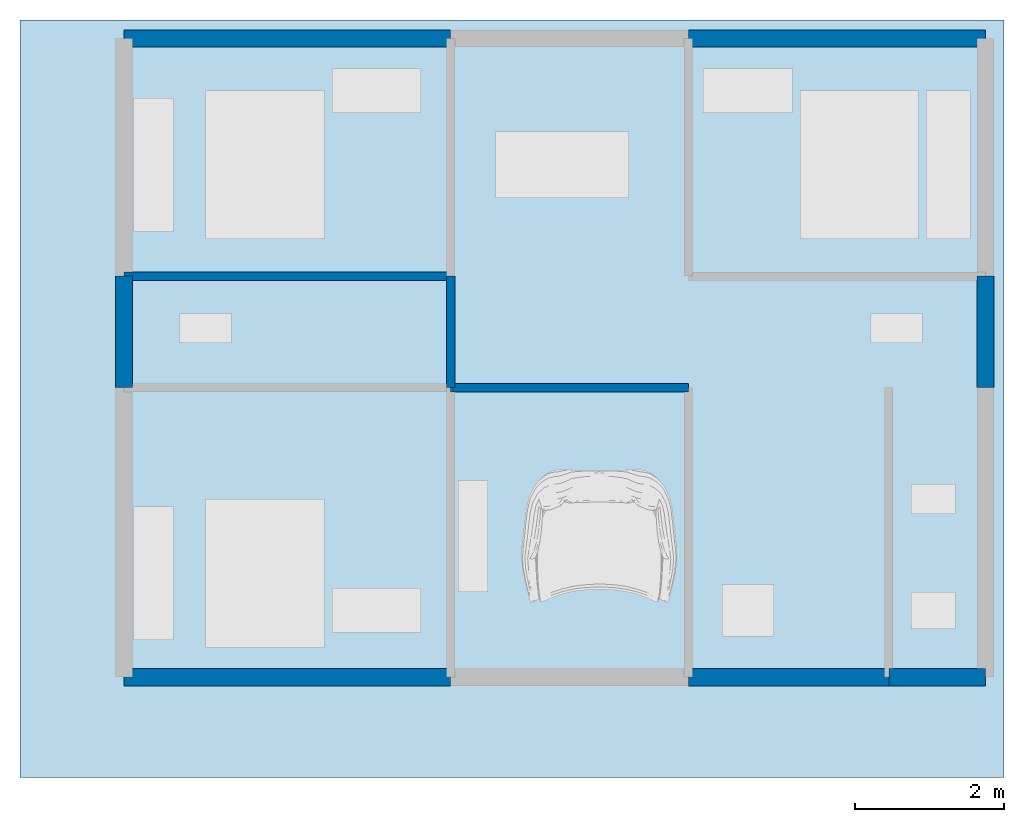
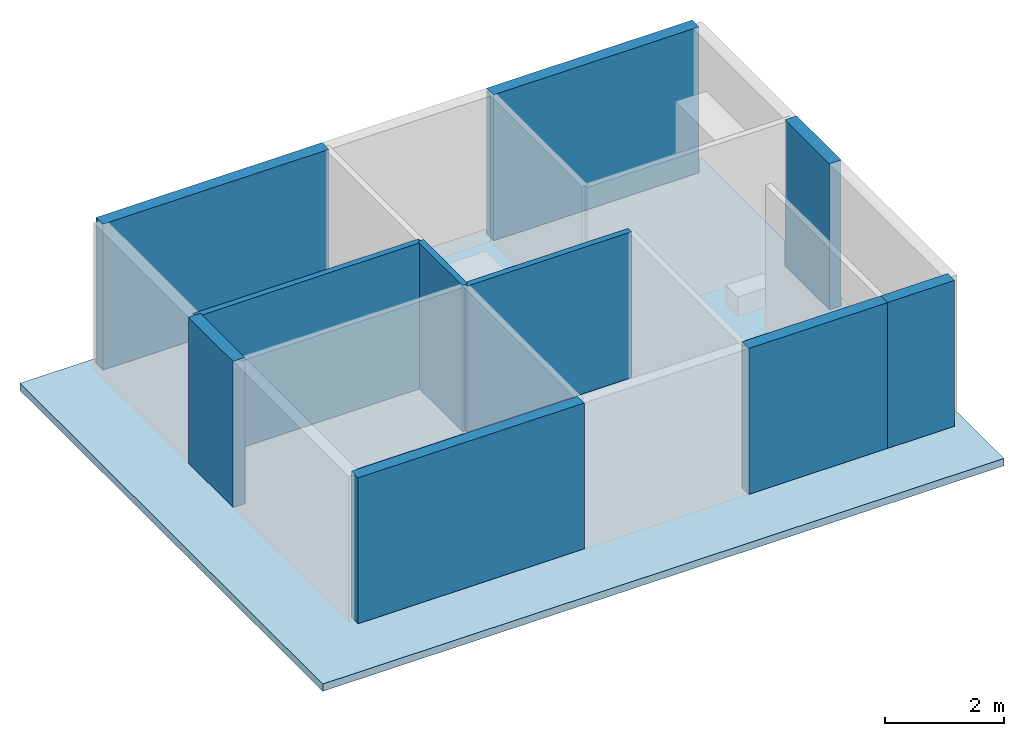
# One storey, part 1 of 3: 10 walls, 1 slab.
"""IFC4 building model written with IfcOpenShell, lengths in metres."""

from ifc_helpers import new_model, si_unit, frame, origin, place, context, project, spatial, polyline, outline, extrude, material, element, save


model = new_model("IFC4")

# Units and contexts
model_context = context("Model", 3, precision=1e-05, world=origin())
ifc_project = project(units=[si_unit("LENGTHUNIT", "METRE")], contexts=[model_context])

# Site, building, storey
site_placement = place(None, origin())
site = spatial("IfcSite", under=ifc_project, at=site_placement, Name="Site")
building_placement = place(site_placement, origin())
building = spatial("IfcBuilding", under=site, at=building_placement, Name="Structure")
storey_placement = place(building_placement, origin())
storey = spatial("IfcBuildingStorey", under=building, at=storey_placement, Name="Ground Floor")

# Slab
ifc_material = material(Name="RCC")
slab_placement = place(storey_placement, frame((0.0, 0.0, -0.15)))
element("IfcSlab", 1, at=slab_placement, inside=storey, material=ifc_material, Name="slab_ground", PredefinedType="FLOOR", context=model_context, shape_type="SweptSolid", body=[
    extrude(outline(polyline([(-1.3000067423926, -1.25), (11.95, -1.25), (11.95, 8.95), (-1.3000067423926, 8.95), (-1.3000067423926, -1.25)])), origin(), (0.0, 0.0, 1.0), 0.15),
])

# Walls
wall_1_placement = place(storey_placement, frame((0.1, 4.0, 0.0), x_axis=(6.12323399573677e-17, 1.0, 0.0)))
element("IfcWallStandardCase", 2, at=wall_1_placement, inside=storey, Name="ext_left_2", context=model_context, shape_type="SweptSolid", body=[
    extrude(outline(polyline([(0.0, -0.115), (1.5, -0.115), (1.5, 0.115), (0.0, 0.115), (0.0, -0.115)])), origin(), (0.0, 0.0, 1.0), 3.0),
])
wall_2_placement = place(storey_placement, frame((0.1, 8.7, 0.0), x_axis=(1.0, 0.0, 0.0)))
element("IfcWallStandardCase", 3, at=wall_2_placement, inside=storey, Name="ext_top_1", context=model_context, shape_type="SweptSolid", body=[
    extrude(outline(polyline([(0.0, -0.115), (4.4, -0.115), (4.4, 0.115), (0.0, 0.115), (0.0, -0.115)])), origin(), (0.0, 0.0, 1.0), 3.0),
])
wall_3_placement = place(storey_placement, frame((7.7, 8.7, 0.0), x_axis=(1.0, 0.0, 0.0)))
element("IfcWallStandardCase", 4, at=wall_3_placement, inside=storey, Name="ext_top_3", context=model_context, shape_type="SweptSolid", body=[
    extrude(outline(polyline([(0.0, -0.115), (4.0, -0.115), (4.0, 0.115), (0.0, 0.115), (0.0, -0.115)])), origin(), (0.0, 0.0, 1.0), 3.0),
])
wall_4_placement = place(storey_placement, frame((11.7, 5.5, 0.0), x_axis=(6.12323399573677e-17, -1.0, 0.0)))
element("IfcWallStandardCase", 5, at=wall_4_placement, inside=storey, Name="ext_right_2", context=model_context, shape_type="SweptSolid", body=[
    extrude(outline(polyline([(0.0, -0.115), (1.5, -0.115), (1.5, 0.115), (0.0, 0.115), (0.0, -0.115)])), origin(), (0.0, 0.0, 1.0), 3.0),
])
wall_5_placement = place(storey_placement, frame((0.1, 0.1, 0.0), x_axis=(1.0, 0.0, 0.0)))
element("IfcWallStandardCase", 6, at=wall_5_placement, inside=storey, Name="ext_bottom_1", context=model_context, shape_type="SweptSolid", body=[
    extrude(outline(polyline([(0.0, -0.115), (4.4, -0.115), (4.4, 0.115), (0.0, 0.115), (0.0, -0.115)])), origin(), (0.0, 0.0, 1.0), 3.0),
])
wall_6_placement = place(storey_placement, frame((7.7, 0.1, 0.0), x_axis=(1.0, 0.0, 0.0)))
element("IfcWallStandardCase", 7, at=wall_6_placement, inside=storey, Name="ext_bottom_3", context=model_context, shape_type="SweptSolid", body=[
    extrude(outline(polyline([(0.0, -0.115), (2.7, -0.115), (2.7, 0.115), (0.0, 0.115), (0.0, -0.115)])), origin(), (0.0, 0.0, 1.0), 3.0),
])
wall_7_placement = place(storey_placement, frame((10.4, 0.1, 0.0), x_axis=(1.0, 0.0, 0.0)))
element("IfcWallStandardCase", 8, at=wall_7_placement, inside=storey, Name="ext_bottom_4", context=model_context, shape_type="SweptSolid", body=[
    extrude(outline(polyline([(0.0, -0.115), (1.3, -0.115), (1.3, 0.115), (0.0, 0.115), (0.0, -0.115)])), origin(), (0.0, 0.0, 1.0), 3.0),
])
wall_8_placement = place(storey_placement, frame((0.1, 5.5, 0.0), x_axis=(1.0, 0.0, 0.0)))
element("IfcWallStandardCase", 9, at=wall_8_placement, inside=storey, Name="int_toilet_b1", context=model_context, shape_type="SweptSolid", body=[
    extrude(outline(polyline([(0.0, -0.0575), (4.4, -0.0575), (4.4, 0.0575), (0.0, 0.0575), (0.0, -0.0575)])), origin(), (0.0, 0.0, 1.0), 3.0),
])
wall_9_placement = place(storey_placement, frame((4.5, 4.0, 0.0), x_axis=(6.12323399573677e-17, 1.0, 0.0)))
element("IfcWallStandardCase", 10, at=wall_9_placement, inside=storey, Name="int_pooja_din", context=model_context, shape_type="SweptSolid", body=[
    extrude(outline(polyline([(0.0, -0.0575), (1.5, -0.0575), (1.5, 0.0575), (0.0, 0.0575), (0.0, -0.0575)])), origin(), (0.0, 0.0, 1.0), 3.0),
])
wall_10_placement = place(storey_placement, frame((4.5, 4.0, 0.0), x_axis=(1.0, 0.0, 0.0)))
element("IfcWallStandardCase", 11, at=wall_10_placement, inside=storey, Name="int_liv_din_beam", context=model_context, shape_type="SweptSolid", body=[
    extrude(outline(polyline([(0.0, -0.0575), (3.2, -0.0575), (3.2, 0.0575), (0.0, 0.0575), (0.0, -0.0575)])), origin(), (0.0, 0.0, 1.0), 3.0),
])

save(model, "model.ifc")
